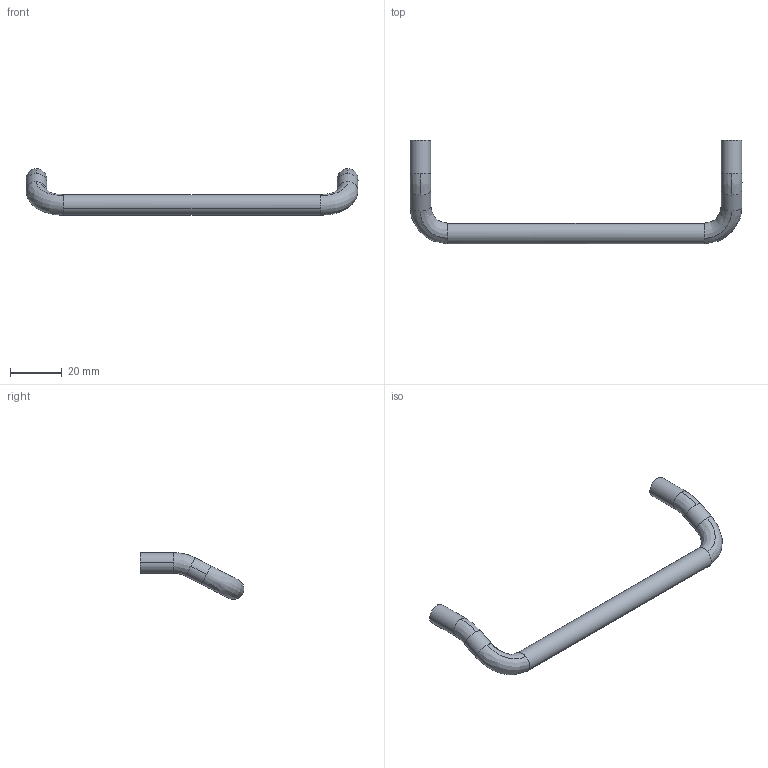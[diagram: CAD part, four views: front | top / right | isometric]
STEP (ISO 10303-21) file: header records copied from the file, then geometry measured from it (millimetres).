
FILE_DESCRIPTION((''),'2;1');
FILE_NAME('','2008-05-01T18:43:20',(''),(''),'','CADfix','');
FILE_SCHEMA(('AUTOMOTIVE_DESIGN { 1 0 10303 214 1 1 1 1 }'));
Length unit declared in the file: millimetre
Bounding box: 128 x 40 x 18 mm (x, y, z)
Volume: 9017.6 mm3; surface area: 5119.7 mm2
Topology: 1 solids, 1 shells, 26 faces, 78 edges, 56 vertices
Faces by surface type: bspline 26
Entity records: 1422 total; most frequent: CARTESIAN_POINT 990, ORIENTED_EDGE 156, EDGE_CURVE 78, VERTEX_POINT 56, EDGE_LOOP 28, FACE_OUTER_BOUND 26, ADVANCED_FACE 26, B_SPLINE_CURVE_WITH_KNOTS 20
